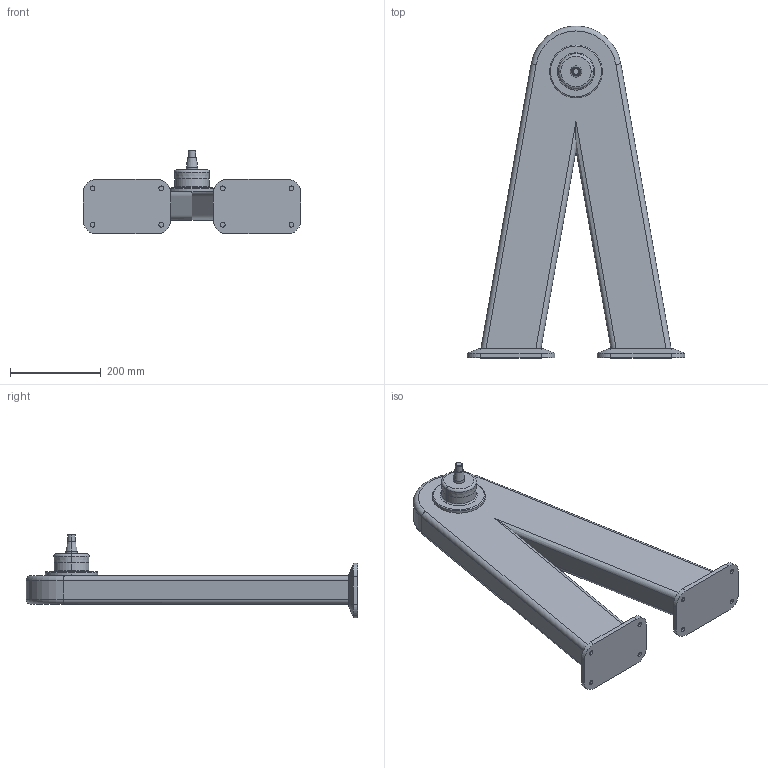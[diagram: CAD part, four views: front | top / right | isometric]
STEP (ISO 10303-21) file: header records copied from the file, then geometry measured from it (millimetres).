
FILE_DESCRIPTION (( 'STEP AP214' ), '1' );
FILE_NAME ('WP850_H630.STEP', '2014-09-08T13:01:55', ( '' ), ( '' ), 'SwSTEP 2.0', 'SolidWorks 2014', '' );
FILE_SCHEMA (( 'AUTOMOTIVE_DESIGN' ));
Length unit declared in the file: millimetre
Products named in the file (1): WP850_H630
Bounding box: 479.2 x 730 x 183.98 mm (x, y, z)
Volume: 11717959.7 mm3; surface area: 575655.7 mm2
Topology: 1 solids, 1 shells, 101 faces, 221 edges, 136 vertices
Faces by surface type: cylinder 41, plane 38, cone 14, torus 8
Entity records: 2795 total; most frequent: DIRECTION 513, CARTESIAN_POINT 489, ORIENTED_EDGE 442, EDGE_CURVE 221, AXIS2_PLACEMENT_3D 200, VERTEX_POINT 136, EDGE_LOOP 115, VECTOR 113
